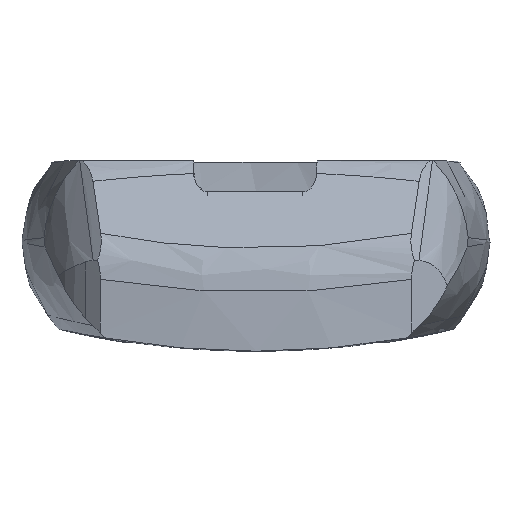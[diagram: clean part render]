
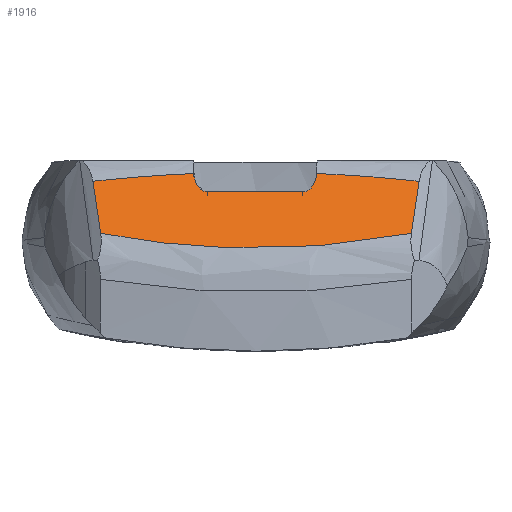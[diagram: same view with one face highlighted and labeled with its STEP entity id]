
A CAD part, top view. The second image highlights one B-rep face of the part: STEP entity #1916.
In plain terms, the highlighted planar face has unit normal (0, 0.581, 0.814).
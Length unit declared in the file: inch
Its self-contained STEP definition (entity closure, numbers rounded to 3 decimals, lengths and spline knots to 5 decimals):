
#58=ELLIPSE('',#1951,6.68349,5.43858);
#59=ELLIPSE('',#1953,6.68349,5.43858);
#63=ELLIPSE('',#1969,0.08602,0.05);
#65=ELLIPSE('',#1976,0.08602,0.05);
#73=ELLIPSE('',#2005,7.24575,4.21151);
#102=LINE('',#3435,#152);
#152=VECTOR('',#2103,0.3937);
#197=PLANE('',#2004);
#288=FACE_OUTER_BOUND('',#391,.T.);
#391=EDGE_LOOP('',(#1674,#1675,#1676,#1677,#1678,#1679,#1680,#1681));
#550=B_SPLINE_CURVE_WITH_KNOTS('',3,(#4243,#4244,#4245,#4246,#4247,#4248,
#4249),.UNSPECIFIED.,.F.,.F.,(4,3,4),(-1.01083,-0.79724,
-0.40815),.UNSPECIFIED.);
#612=B_SPLINE_CURVE_WITH_KNOTS('',3,(#5116,#5117,#5118,#5119,#5120,#5121,
#5122),.UNSPECIFIED.,.F.,.F.,(4,3,4),(0.58702,0.8002,
1.18914),.UNSPECIFIED.);
#673=VERTEX_POINT('',#2499);
#674=VERTEX_POINT('',#2504);
#680=VERTEX_POINT('',#2586);
#681=VERTEX_POINT('',#2600);
#736=VERTEX_POINT('',#3281);
#745=VERTEX_POINT('',#3434);
#787=VERTEX_POINT('',#4232);
#834=VERTEX_POINT('',#5115);
#883=EDGE_CURVE('',#673,#674,#58,.T.);
#893=EDGE_CURVE('',#680,#681,#59,.T.);
#966=EDGE_CURVE('',#736,#681,#63,.T.);
#982=EDGE_CURVE('',#745,#736,#102,.T.);
#985=EDGE_CURVE('',#673,#745,#65,.T.);
#1048=EDGE_CURVE('',#787,#680,#550,.F.);
#1124=EDGE_CURVE('',#674,#834,#612,.T.);
#1135=EDGE_CURVE('',#834,#787,#73,.T.);
#1674=ORIENTED_EDGE('',*,*,#966,.T.);
#1675=ORIENTED_EDGE('',*,*,#893,.F.);
#1676=ORIENTED_EDGE('',*,*,#1048,.F.);
#1677=ORIENTED_EDGE('',*,*,#1135,.F.);
#1678=ORIENTED_EDGE('',*,*,#1124,.F.);
#1679=ORIENTED_EDGE('',*,*,#883,.F.);
#1680=ORIENTED_EDGE('',*,*,#985,.T.);
#1681=ORIENTED_EDGE('',*,*,#982,.T.);
#1916=ADVANCED_FACE('',(#288),#197,.F.);
#1951=AXIS2_PLACEMENT_3D('',#2505,#2029,#2030);
#1953=AXIS2_PLACEMENT_3D('',#2601,#2035,#2036);
#1969=AXIS2_PLACEMENT_3D('',#3282,#2083,#2084);
#1976=AXIS2_PLACEMENT_3D('',#3440,#2108,#2109);
#2004=AXIS2_PLACEMENT_3D('',#5237,#2179,#2180);
#2005=AXIS2_PLACEMENT_3D('',#5238,#2181,#2182);
#2029=DIRECTION('center_axis',(0.,-0.581,-0.814));
#2030=DIRECTION('ref_axis',(0.,0.814,-0.581));
#2035=DIRECTION('center_axis',(0.,-0.581,-0.814));
#2036=DIRECTION('ref_axis',(0.,0.814,-0.581));
#2083=DIRECTION('center_axis',(0.,-0.581,-0.814));
#2084=DIRECTION('ref_axis',(0.,0.814,-0.581));
#2103=DIRECTION('',(-1.,0.,0.));
#2108=DIRECTION('center_axis',(0.,-0.581,-0.814));
#2109=DIRECTION('ref_axis',(0.,-0.814,0.581));
#2179=DIRECTION('center_axis',(0.,-0.581,-0.814));
#2180=DIRECTION('ref_axis',(0.,0.814,-0.581));
#2181=DIRECTION('center_axis',(0.,-0.581,-0.814));
#2182=DIRECTION('ref_axis',(0.,-0.814,0.581));
#2499=CARTESIAN_POINT('',(0.22207,0.57318,1.19526));
#2504=CARTESIAN_POINT('',(0.59927,0.54454,1.21571));
#2505=CARTESIAN_POINT('Origin',(-0.00081,-4.86083,
5.07669));
#2586=CARTESIAN_POINT('',(-0.59929,0.54472,1.21559));
#2600=CARTESIAN_POINT('',(-0.22788,0.573,1.19538));
#2601=CARTESIAN_POINT('Origin',(-0.00081,-4.86083,
5.07669));
#3281=CARTESIAN_POINT('',(-0.17791,0.50564,1.2435));
#3282=CARTESIAN_POINT('Origin',(-0.17791,0.57564,1.1935));
#3434=CARTESIAN_POINT('',(0.1721,0.50564,1.2435));
#3435=CARTESIAN_POINT('',(0.08605,0.50564,1.2435));
#3440=CARTESIAN_POINT('Origin',(0.1721,0.57564,1.1935));
#4232=CARTESIAN_POINT('',(-0.5707,0.35304,1.3525));
#4243=CARTESIAN_POINT('Ctrl Pts',(-0.59929,0.54472,
1.21559));
#4244=CARTESIAN_POINT('Ctrl Pts',(-0.59611,0.52205,1.23177));
#4245=CARTESIAN_POINT('Ctrl Pts',(-0.59285,0.4994,
1.24796));
#4246=CARTESIAN_POINT('Ctrl Pts',(-0.58953,0.47675,
1.26413));
#4247=CARTESIAN_POINT('Ctrl Pts',(-0.58348,0.43549,
1.2936));
#4248=CARTESIAN_POINT('Ctrl Pts',(-0.57721,0.39425,1.32306));
#4249=CARTESIAN_POINT('Ctrl Pts',(-0.5707,0.35304,
1.3525));
#5115=CARTESIAN_POINT('',(0.5707,0.35304,1.3525));
#5116=CARTESIAN_POINT('Ctrl Pts',(0.59927,0.54454,1.21571));
#5117=CARTESIAN_POINT('Ctrl Pts',(0.59609,0.52192,1.23187));
#5118=CARTESIAN_POINT('Ctrl Pts',(0.59284,0.49931,1.24802));
#5119=CARTESIAN_POINT('Ctrl Pts',(0.58953,0.4767,1.26417));
#5120=CARTESIAN_POINT('Ctrl Pts',(0.58348,0.43546,1.29363));
#5121=CARTESIAN_POINT('Ctrl Pts',(0.5772,0.39424,1.32307));
#5122=CARTESIAN_POINT('Ctrl Pts',(0.5707,0.35304,1.3525));
#5237=CARTESIAN_POINT('Origin',(0.,0.2465,1.4286));
#5238=CARTESIAN_POINT('Origin',(0.,6.19476,
-2.82016));
